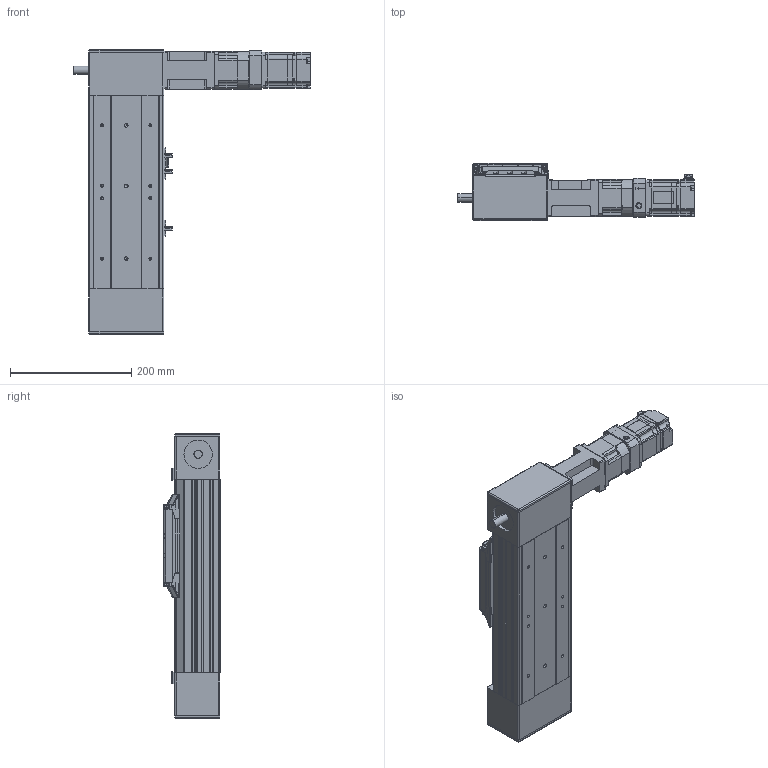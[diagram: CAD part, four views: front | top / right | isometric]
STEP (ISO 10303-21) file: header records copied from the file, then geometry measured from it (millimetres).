
FILE_DESCRIPTION (( 'STEP AP203' ), '1' );
FILE_NAME ('PCB120SDN-0000-ST100-20NR00-N-I3R.STEP', '2015-10-20T06:08:17', ( '' ), ( '' ), 'SwSTEP 2.0', 'SolidWorks 2012', '' );
FILE_SCHEMA (( 'CONFIG_CONTROL_DESIGN' ));
Length unit declared in the file: millimetre
Products named in the file (14): sgmjv_02a_a21; PCB120SDN-0000-ST100-20NR00-N-I3R; PGX62-H-1_3; EE_SX672; PCB120-Motor Bracket; jc32c; PCB120-Sensor Dog; PCB120-Carrier END COVER; PCB120-Carrier UPPER COVER; PCB120-Carrier Assy; PCB120-Drive Pulley Block D; PCB120-BASE 100ST; PCB120-Idler Pulley Block; PCB120-Carrier
Assembly tree (16 placements, depth 3):
  PCB120SDN-0000-ST100-20NR00-N-I3R
    PCB120-BASE 100ST
    PCB120-Drive Pulley Block D
    PCB120-Idler Pulley Block
    PCB120-Carrier Assy
      PCB120-Carrier
      PCB120-Carrier UPPER COVER
      PCB120-Carrier END COVER  x2
      PCB120-Sensor Dog
    EE_SX672  x3
    PCB120-Motor Bracket
    PGX62-H-1_3
    jc32c
    sgmjv_02a_a21
Bounding box: 391.1 x 94.26 x 470 mm (x, y, z)
Volume: 4710886.9 mm3; surface area: 713759.5 mm2
Topology: 37 solids, 38 shells, 2985 faces, 7854 edges, 5001 vertices
Faces by surface type: plane 1663, cylinder 950, cone 214, bspline 130, sphere 28
Entity records: 85669 total; most frequent: CARTESIAN_POINT 20804, ORIENTED_EDGE 13332, DIRECTION 12978, EDGE_CURVE 6668, LINE 4398, VECTOR 4398, VERTEX_POINT 4307, AXIS2_PLACEMENT_3D 4290
